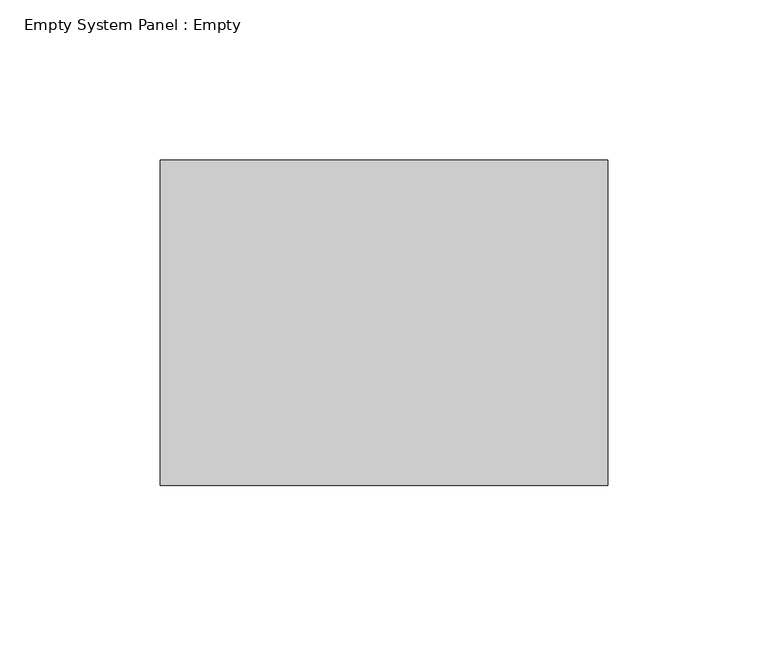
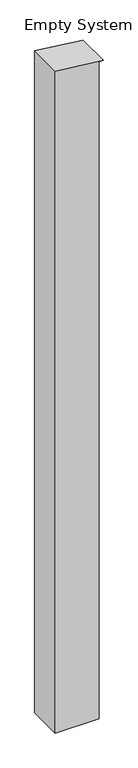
"""IFC4 building model written with IfcOpenShell, lengths in millimetres: plate geometry, Empty System Panel : Empty."""

from ifc_helpers import new_model, si_unit, frame, origin, place, context, project, spatial, polyline, outline, extrude, source, transform, mapped, element, save


def empty_system_panel_empty_e110883e(model_context):
    return source(origin(), model_context, "Body", "SweptSolid", [
        extrude(outline(polyline([(0.0, -69.85), (0.0, 57.15), (2008.3932337, 57.15), (2008.3932337, 69.85), (2024.0184236, -69.85), (0.0, -69.85)])), frame((0.0, -50.8, 0.0), z_axis=(0.0, 1.0, 0.0), x_axis=(0.0, 0.0, 1.0)), (0.0, 0.0, 1.0), 101.6),
    ])


if __name__ == "__main__":
    model = new_model("IFC4")
    model_context = context("Model", 3, world=origin())
    ifc_project = project(units=[si_unit("LENGTHUNIT", "METRE", prefix="MILLI")], contexts=[model_context])
    site = spatial("IfcSite", under=ifc_project)
    building = spatial("IfcBuilding", under=site)
    placement = place(None, origin())
    empty_system_panel_empty_shape = empty_system_panel_empty_e110883e(model_context)
    element("IfcPlate", 1, ObjectType="Empty System Panel : Empty", at=placement, inside=building, context=model_context, shape_type="MappedRepresentation", body=[
        mapped(empty_system_panel_empty_shape, transform((0.0, 0.0, 0.0), x_axis=(1.0, 0.0, 0.0), y_axis=(0.0, 1.0, 0.0), z_axis=(0.0, 0.0, 1.0))),
    ])
    save(model, "model.ifc")
